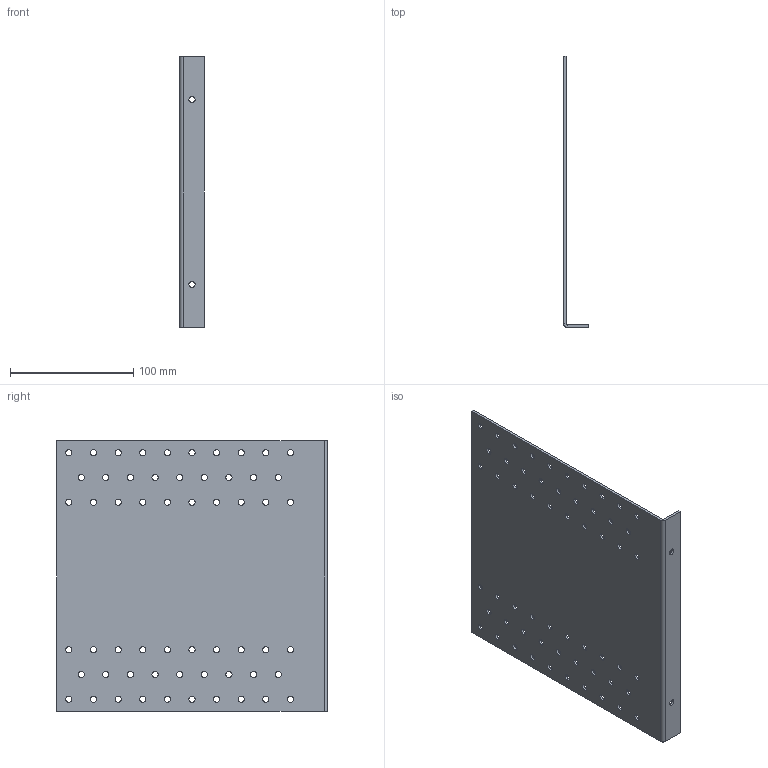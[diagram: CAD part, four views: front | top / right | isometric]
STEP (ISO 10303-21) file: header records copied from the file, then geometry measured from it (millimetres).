
FILE_DESCRIPTION (( 'STEP AP203' ), '1' );
FILE_NAME ('222.STEP', '2020-04-17T13:12:55', ( '' ), ( '' ), 'SwSTEP 2.0', 'SolidWorks 2013', '' );
FILE_SCHEMA (( 'CONFIG_CONTROL_DESIGN' ));
Length unit declared in the file: millimetre
Products named in the file (1): 222
Bounding box: 20 x 220 x 220 mm (x, y, z)
Volume: 102036.7 mm3; surface area: 105750.7 mm2
Topology: 1 solids, 1 shells, 134 faces, 388 edges, 256 vertices
Faces by surface type: cylinder 122, plane 12
Entity records: 4869 total; most frequent: DIRECTION 902, CARTESIAN_POINT 779, ORIENTED_EDGE 776, EDGE_CURVE 388, AXIS2_PLACEMENT_3D 379, VERTEX_POINT 256, EDGE_LOOP 254, CIRCLE 244
